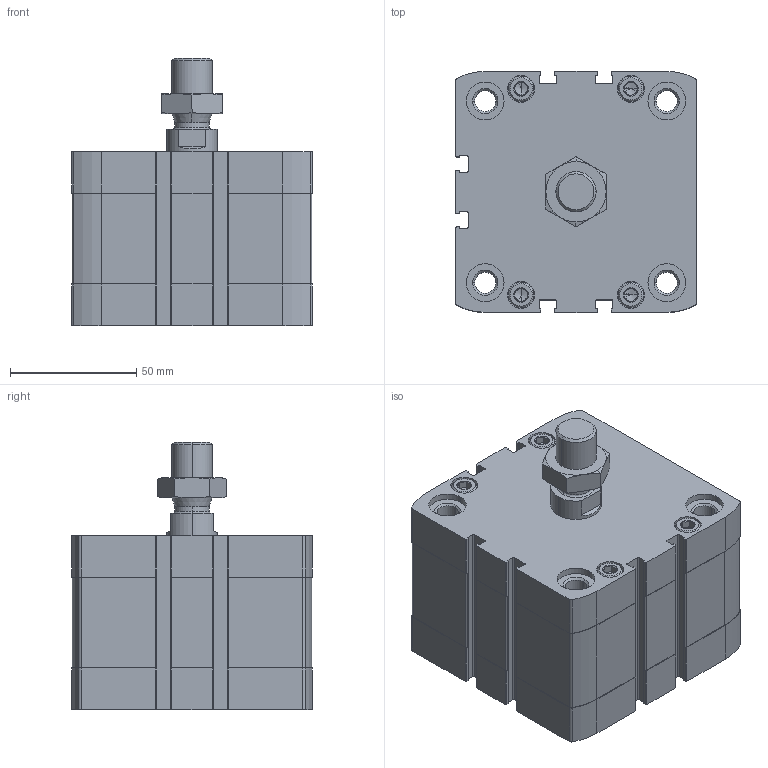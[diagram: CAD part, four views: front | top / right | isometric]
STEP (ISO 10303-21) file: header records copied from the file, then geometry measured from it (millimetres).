
FILE_DESCRIPTION (( 'STEP AP203' ), '1' );
FILE_NAME ('CCN80-15M.STEP', '2017-04-05T20:14:48', ( '' ), ( '' ), 'SwSTEP 2.0', 'SolidWorks 2016', '' );
FILE_SCHEMA (( 'CONFIG_CONTROL_DESIGN' ));
Length unit declared in the file: millimetre
Products named in the file (4): CCN-15-(KS); _DIN-439-B - M16x1.5(F); CCN80-15M; CCN---(Z)
Assembly tree (3 placements, depth 2):
  CCN80-15M
    CCN---(Z)
    CCN-15-(KS)
    _DIN-439-B - M16x1.5(F)
Bounding box: 95.5 x 95.5 x 105.9 mm (x, y, z)
Volume: 527552.8 mm3; surface area: 100117.2 mm2
Topology: 3 solids, 3 shells, 507 faces, 1278 edges, 808 vertices
Faces by surface type: plane 235, cylinder 188, cone 80, bspline 4
Entity records: 16086 total; most frequent: CARTESIAN_POINT 3295, DIRECTION 2704, ORIENTED_EDGE 2524, EDGE_CURVE 1262, AXIS2_PLACEMENT_3D 1013, VERTEX_POINT 808, LINE 678, VECTOR 678
